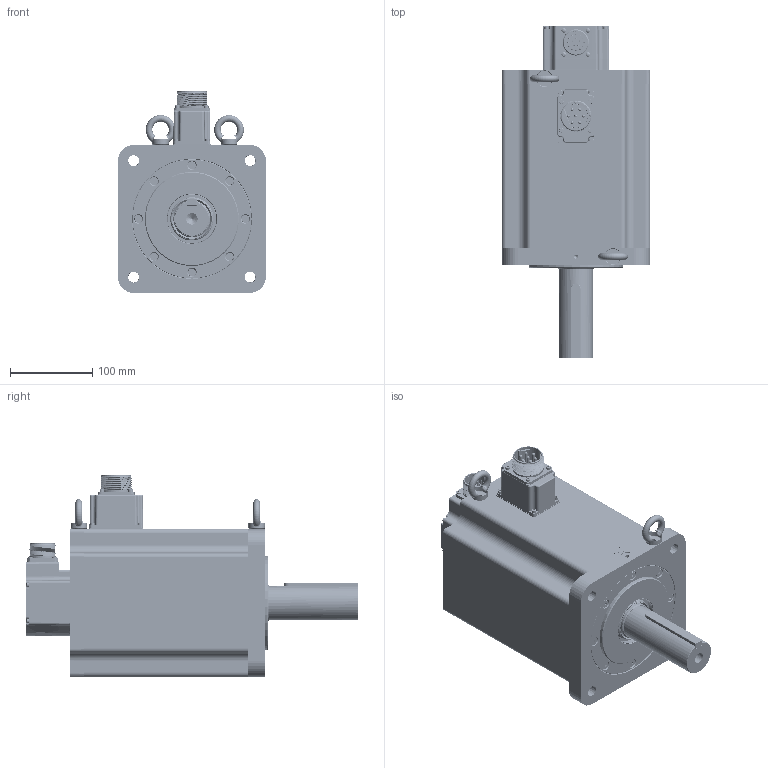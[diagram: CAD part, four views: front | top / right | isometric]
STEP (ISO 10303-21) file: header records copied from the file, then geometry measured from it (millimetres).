
FILE_DESCRIPTION(/* description */ ('AdapterTestApp'),/* implementation_level */ '2;1');
FILE_NAME(/* name */ 'TCE180 6F XX 3 A1 0 C3',/* time_stamp */ '2015-09-11T16:44:34+02:00',/* author */ ('AdapterTestApp'),/* organization */ ('Siemens PLM Software'),/* preprocessor_version */ 'ST-DEVELOPER v15.6',/* originating_system */ 'DEX',/* authorisation */ $);
FILE_SCHEMA (('AUTOMOTIVE_DESIGN {1 0 10303 214 3 1 1}'));
Products named in the file (35): TCE180 6F XX 3 A1 0 C3_vuoto; 003251022004; 005123001580; 005911000216; 003103001503; 005911000493; 005911000479; 005204000003; 005123001110; 005204000001; back cover TCE100 + CN MIL; 001107000620; 003303000373; 005911000525; 003108015154; 005204000002; 005119001104; N0180028; 005911000006; 005321000010; 003251022003; 005008000953; U5180004_vuoto; 003120002509; 003799000581; 003303000370; 003303000372; 007117001753; 005911000201; cap-M3 nudo; 005911000190; 005008000664; 005008000690; 003155002050; 005113001080
Assembly tree (66 placements, depth 3):
  TCE180 6F XX 3 A1 0 C3_vuoto
    003251022004
    005123001580
    005911000216  x4
    003103001503
    005911000493  x4
    005911000479  x8
    005204000003
    005123001110
    005204000001
    back cover TCE100 + CN MIL
      001107000620
      003303000373
      005911000525  x4
      003108015154
    005204000002
    005119001104
    N0180028
    005911000006  x8
    005321000010  x2
    003251022003
    005008000953
    U5180004_vuoto
      003120002509
      003799000581
      003303000370
      003303000372
      007117001753
      005911000201  x8
      cap-M3 nudo
      005911000190
    005008000664
    005008000690  x2
    003155002050
    005113001080
Bounding box: 180.3 x 403 x 245.3 mm (x, y, z)
Volume: 3467435.5 mm3; surface area: 769429.9 mm2
Topology: 80 solids, 87 shells, 2847 faces, 6983 edges, 4475 vertices
Faces by surface type: plane 1378, cylinder 709, cone 223, torus 183, bspline 182, extrusion 88, sphere 82, revolution 2
Full cylindrical faces by diameter (mm): 1.423 x1, 1.523 x1, 2 x34, 2.163 x1, 2.459 x21, 2.5 x1, 2.6 x1, 2.9 x4, 3 x30, 3.048 x4, 3.2 x1, 3.242 x6, 3.5 x15, 3.6 x7, 3.7 x4, 4 x9, 4.134 x24, 4.4 x15, 4.7 x8, 4.917 x2, 5 x16, 5.3 x1, 5.5 x15, 5.6 x4, 6 x7, 6.6 x6, 6.647 x22, 7 x8, 7.2 x1, 8 x16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
Entity records: 85712 total; most frequent: CARTESIAN_POINT 32680, DIRECTION 10488, ORIENTED_EDGE 10066, EDGE_CURVE 5033, AXIS2_PLACEMENT_3D 3912, VERTEX_POINT 3579, FACE_BOUND 3344, EDGE_LOOP 3284
